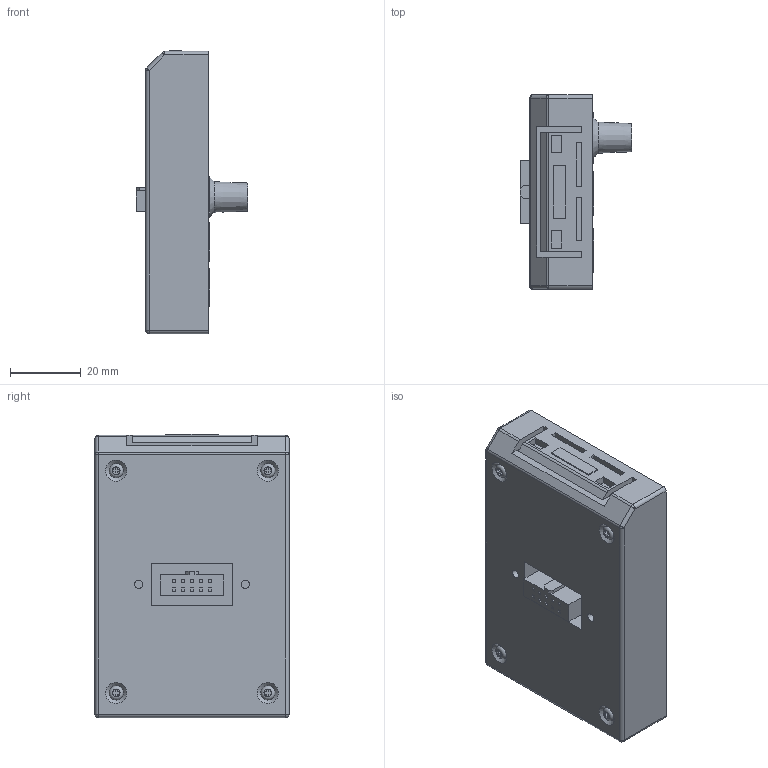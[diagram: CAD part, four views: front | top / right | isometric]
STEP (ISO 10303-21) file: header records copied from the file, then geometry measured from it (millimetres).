
FILE_DESCRIPTION(('STEP AP203'), '1');
FILE_NAME('Ïàíåëü óïðàâëåíèÿ _ FCI-KP-S', '', ('UNSPECIFIED'), ('UNSPECIFIED'), 'C3D Converter', 'C3D Toolkit', '');
FILE_SCHEMA(('CONFIG_CONTROL_DESIGN'));
Length unit declared in the file: millimetre
Products named in the file (1): FCI-KP-S
Bounding box: 31.7 x 55 x 80.3 mm (x, y, z)
Volume: 77169.5 mm3; surface area: 16085 mm2
Topology: 1 solids, 1 shells, 307 faces, 789 edges, 513 vertices
Faces by surface type: plane 224, cylinder 67, cone 6, sphere 6, torus 4
Full cylindrical faces by diameter (mm): 2.4 x2, 4 x4
Entity records: 11618 total; most frequent: CARTESIAN_POINT 1588, ORIENTED_EDGE 1534, DIRECTION 1528, EDGE_CURVE 767, LINE 622, VECTOR 622, VERTEX_POINT 513, AXIS2_PLACEMENT_3D 453
